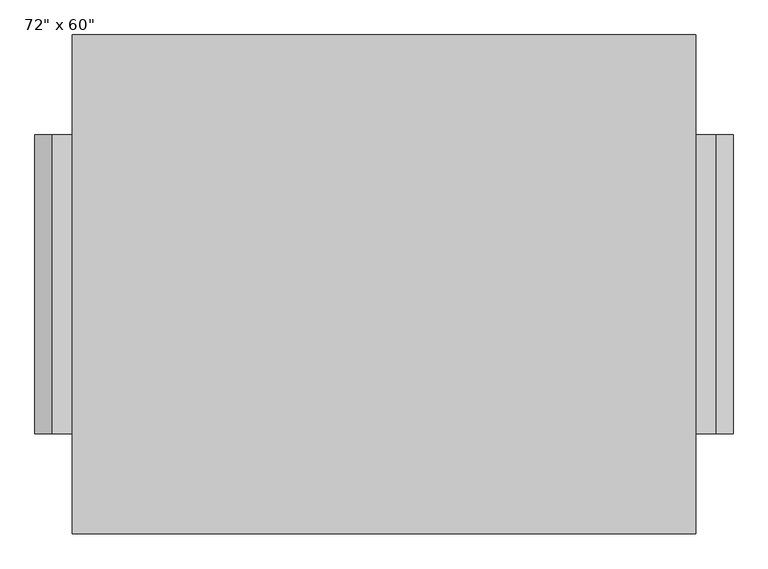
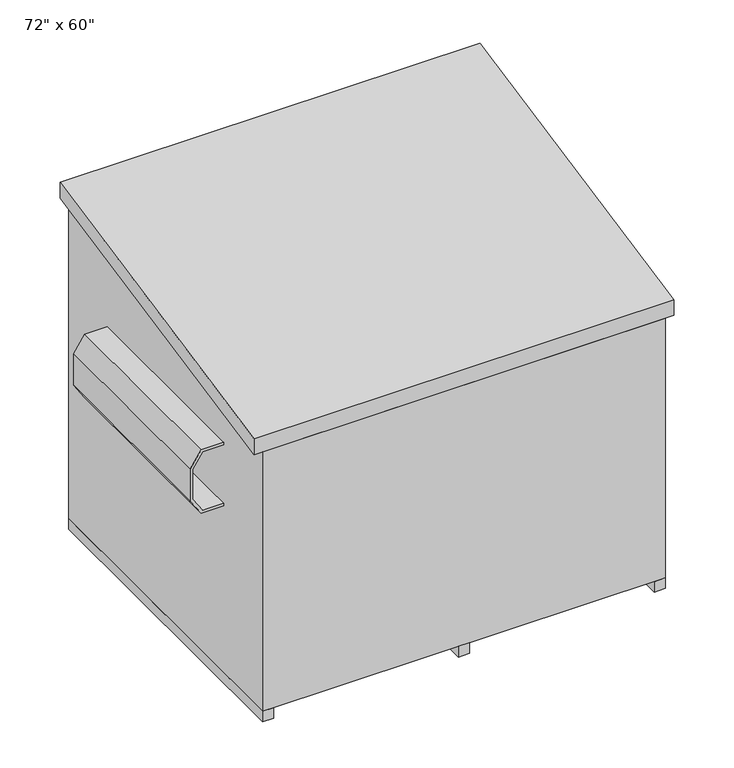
"""IFC4 building model written with IfcOpenShell, lengths in millimetres: geographic element geometry."""

from ifc_helpers import new_model, si_unit, frame, origin, origin_with_axes, place, context, project, spatial, polyline, outline, extrude, source, transform, mapped, element, save


def geographic_element_1448792e(model_context):
    return source(origin(), model_context, "Body", "SweptSolid", [
        extrude(outline(polyline([(762.0, 1676.4), (762.0, 1600.2), (-762.0, 1295.4), (-762.0, 1371.6), (762.0, 1676.4)])), frame((-952.5, 0.0, 0.0), z_axis=(1.0, 0.0, 0.0), x_axis=(0.0, 1.0, 0.0)), (0.0, 0.0, 1.0), 1905.0),
        extrude(outline(polyline([(-863.6, -762.0), (-914.4, -762.0), (-914.4, 762.0), (-863.6, 762.0), (-863.6, -762.0)])), origin_with_axes(), (0.0, 0.0, 1.0), 50.8),
        extrude(outline(polyline([(914.4, -762.0), (863.6, -762.0), (863.6, 762.0), (914.4, 762.0), (914.4, -762.0)])), origin_with_axes(), (0.0, 0.0, 1.0), 50.8),
        extrude(outline(polyline([(25.4, -762.0), (-25.4, -762.0), (-25.4, 762.0), (25.4, 762.0), (25.4, -762.0)])), origin_with_axes(), (0.0, 0.0, 1.0), 50.8),
        extrude(outline(polyline([(1155.9628223, -1016.0), (1079.7628223, -1066.8), (927.3628223, -1066.8), (851.1628223, -1016.0), (851.1628223, -914.4), (863.8628223, -914.4), (863.8628223, -1009.2031663), (931.2080729, -1054.1), (1075.9175717, -1054.1), (1143.2628223, -1009.2031663), (1143.2628223, -914.4), (1155.9628223, -914.4), (1155.9628223, -1016.0)])), frame((0.0, -457.2, 0.0), z_axis=(0.0, 1.0, 0.0), x_axis=(0.0, 0.0, 1.0)), (0.0, 0.0, 1.0), 914.4),
        extrude(outline(polyline([(1155.9628223, 1016.0), (1155.9628223, 914.4), (1143.2628223, 914.4), (1143.2628223, 1009.2031663), (1075.9175717, 1054.1), (931.2080729, 1054.1), (863.8628223, 1009.2031663), (863.8628223, 914.4), (851.1628223, 914.4), (851.1628223, 1016.0), (927.3628223, 1066.8), (1079.7628223, 1066.8), (1155.9628223, 1016.0)])), frame((0.0, -457.2, 0.0), z_axis=(0.0, 1.0, 0.0), x_axis=(0.0, 0.0, 1.0)), (0.0, 0.0, 1.0), 914.4),
        extrude(outline(polyline([(-762.0, 50.8), (-762.0, 1295.4), (762.0, 1600.2), (762.0, 50.8), (-762.0, 50.8)])), frame((-914.4, 0.0, 0.0), z_axis=(1.0, 0.0, 0.0), x_axis=(0.0, 1.0, 0.0)), (0.0, 0.0, 1.0), 1828.8),
    ])


if __name__ == "__main__":
    model = new_model("IFC4")
    model_context = context("Model", 3, world=origin())
    ifc_project = project(units=[si_unit("LENGTHUNIT", "METRE", prefix="MILLI")], contexts=[model_context])
    site = spatial("IfcSite", under=ifc_project)
    building = spatial("IfcBuilding", under=site)
    placement = place(None, origin())
    geographic_element_shape = geographic_element_1448792e(model_context)
    element("IfcGeographicElement", 1, ObjectType="Dumpster : 72\" x 60\"", at=placement, inside=building, context=model_context, shape_type="MappedRepresentation", body=[
        mapped(geographic_element_shape, transform((0.0, 0.0, 0.0), x_axis=(1.0, 0.0, 0.0), y_axis=(0.0, 1.0, 0.0), z_axis=(0.0, 0.0, 1.0))),
    ])
    save(model, "model.ifc")
